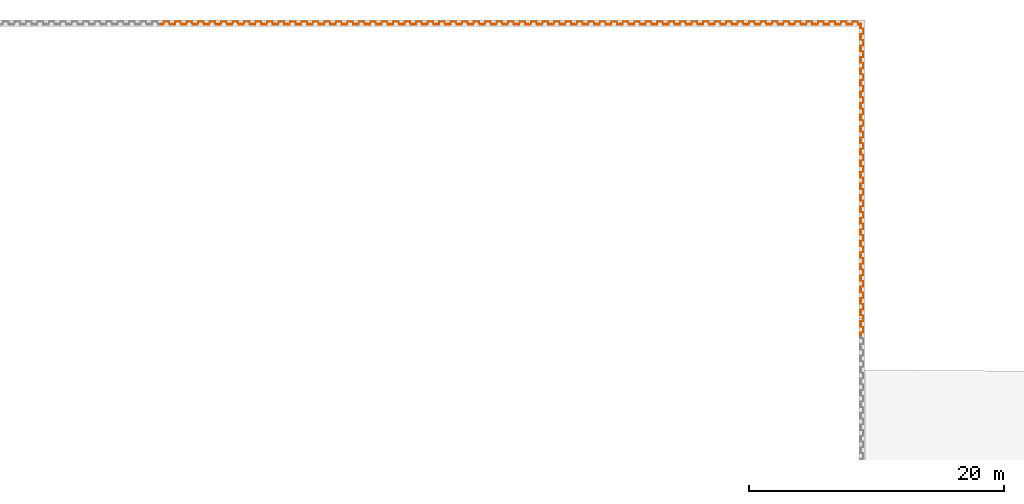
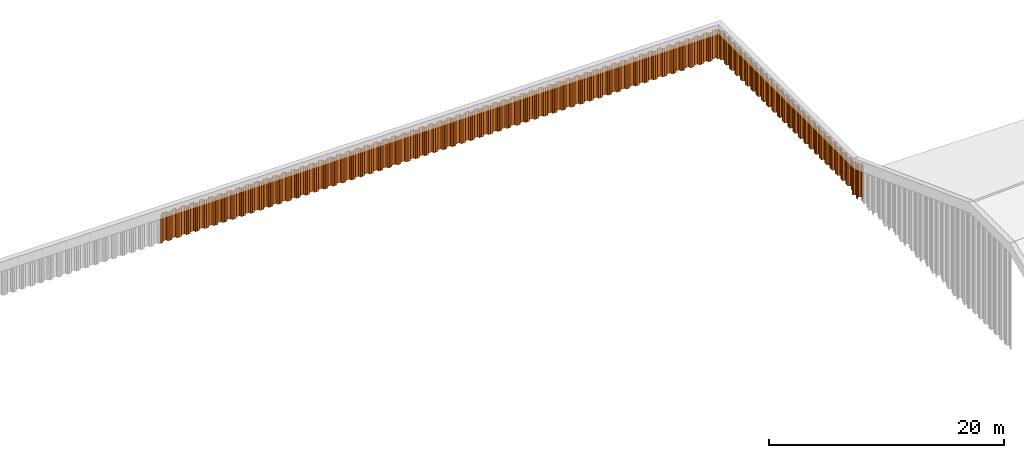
# One storey, part 15 of 15: 88 proxies.
"""IFC2X3 building model written with IfcOpenShell, lengths in millimetres."""

from ifc_helpers import new_model, entity, si_unit, converted_unit, derived_unit, direction, frame, frame_2d, origin, place, context, subcontext, project, spatial, polyline, circle_curve, parameter, trimmed, segment, composite_curve, outline, extrude, source, transform, mapped, material, type_object, type_shapes, element, save


model = new_model("IFC2X3")

# Units and contexts
model_context = context("Model", 3, precision=0.01, world=origin(), true_north=direction((6.12303176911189e-17, 1.0)))
body_context = subcontext(model_context, "Body", "Model", "MODEL_VIEW")
ifc_project = project(units=[si_unit("LENGTHUNIT", "METRE", prefix="MILLI"), si_unit("AREAUNIT", "SQUARE_METRE"), si_unit("VOLUMEUNIT", "CUBIC_METRE"), converted_unit("PLANEANGLEUNIT", "DEGREE", entity("IfcRatioMeasure", 0.0174532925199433), si_unit("PLANEANGLEUNIT", "RADIAN"), dimensions=[0, 0, 0, 0, 0, 0, 0]), si_unit("MASSUNIT", "GRAM", prefix="KILO"), derived_unit("MASSDENSITYUNIT", [(si_unit("MASSUNIT", "GRAM", prefix="KILO"), 1), (si_unit("LENGTHUNIT", "METRE"), -3)]), derived_unit("MOMENTOFINERTIAUNIT", [(si_unit("LENGTHUNIT", "METRE"), 4)]), si_unit("TIMEUNIT", "SECOND"), si_unit("FREQUENCYUNIT", "HERTZ"), si_unit("THERMODYNAMICTEMPERATUREUNIT", "DEGREE_CELSIUS"), derived_unit("THERMALTRANSMITTANCEUNIT", [(si_unit("MASSUNIT", "GRAM", prefix="KILO"), 1), (si_unit("THERMODYNAMICTEMPERATUREUNIT", "KELVIN"), -1), (si_unit("TIMEUNIT", "SECOND"), -3)]), derived_unit("VOLUMETRICFLOWRATEUNIT", [(si_unit("LENGTHUNIT", "METRE"), 3), (si_unit("TIMEUNIT", "SECOND"), -1)]), si_unit("ELECTRICCURRENTUNIT", "AMPERE"), si_unit("ELECTRICVOLTAGEUNIT", "VOLT"), si_unit("POWERUNIT", "WATT"), si_unit("FORCEUNIT", "NEWTON", prefix="KILO"), si_unit("ILLUMINANCEUNIT", "LUX"), si_unit("LUMINOUSFLUXUNIT", "LUMEN"), si_unit("LUMINOUSINTENSITYUNIT", "CANDELA"), derived_unit("USERDEFINED", [(si_unit("MASSUNIT", "GRAM", prefix="KILO"), -1), (si_unit("LENGTHUNIT", "METRE"), -2), (si_unit("TIMEUNIT", "SECOND"), 3), (si_unit("LUMINOUSFLUXUNIT", "LUMEN"), 1)]), derived_unit("LINEARVELOCITYUNIT", [(si_unit("LENGTHUNIT", "METRE"), 1), (si_unit("TIMEUNIT", "SECOND"), -1)]), si_unit("PRESSUREUNIT", "PASCAL"), derived_unit("USERDEFINED", [(si_unit("LENGTHUNIT", "METRE"), -2), (si_unit("MASSUNIT", "GRAM", prefix="KILO"), 1), (si_unit("TIMEUNIT", "SECOND"), -2)]), derived_unit("LINEARFORCEUNIT", [(si_unit("MASSUNIT", "GRAM", prefix="KILO"), 1), (si_unit("LENGTHUNIT", "METRE"), 1), (si_unit("TIMEUNIT", "SECOND"), -2), (si_unit("LENGTHUNIT", "METRE"), -1)]), derived_unit("PLANARFORCEUNIT", [(si_unit("MASSUNIT", "GRAM", prefix="KILO"), 1), (si_unit("LENGTHUNIT", "METRE"), 1), (si_unit("TIMEUNIT", "SECOND"), -2), (si_unit("LENGTHUNIT", "METRE"), -2)])], contexts=[model_context])

# Site, building, storey
site_placement = place(None, origin())
site = spatial("IfcSite", under=ifc_project, at=site_placement, Name="Default", CompositionType="ELEMENT")
building_placement = place(site_placement, origin())
building = spatial("IfcBuilding", under=site, at=building_placement, CompositionType="ELEMENT")
storey_placement = place(building_placement, frame((0.0, 0.0, 9500.0)))
storey = spatial("IfcBuildingStorey", under=building, at=storey_placement, Name="AP+9.500", CompositionType="ELEMENT", Elevation=9500.0)

# Proxies
ifc_material = material(Name="<Unnamed>")
building_element_proxy_type_1 = type_object("IfcBuildingElementProxyType", Name="鋼矢板10H型:鋼矢板10H型", PredefinedType="NOTDEFINED", material=ifc_material)
shared_shape_1 = source(origin(), body_context, "Body", "SweptSolid", [
    extrude(outline(composite_curve([segment(trimmed(circle_curve(frame_2d((85.3662976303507, 306.644432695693), x_axis=(0.422618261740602, 0.906307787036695)), 13.885714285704), [parameter(24.9999999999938)], [parameter(90.0000000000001)], True, "PARAMETER"), True, "CONTINUOUS"), segment(polyline([(72.7815666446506, 312.512789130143), (9.8129512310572, 177.476157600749)]), True, "CONTINUOUS"), segment(trimmed(circle_curve(frame_2d((29.3891994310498, 168.347603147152), x_axis=(0.422618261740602, 0.906307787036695)), 21.6), [parameter(90.0000000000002)], [parameter(168.69006752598)], True, "PARAMETER"), True, "CONTINUOUS"), segment(polyline([(16.598697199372, 150.941769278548), (175.329723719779, 34.2998683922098)]), True, "CONTINUOUS"), segment(trimmed(circle_curve(frame_2d((168.93447260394, 25.596951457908), x_axis=(0.422618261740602, 0.906307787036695)), 10.7999999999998), [parameter(270.0)], [parameter(348.690067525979)], True, "PARAMETER"), False, "CONTINUOUS"), segment(polyline([(178.722596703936, 21.0326742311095), (18.2974003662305, -323.000269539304)]), True, "CONTINUOUS"), segment(trimmed(circle_curve(frame_2d((8.50927626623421, -318.435992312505), x_axis=(0.422618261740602, 0.906307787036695)), 10.8), [parameter(191.30993247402)], [parameter(269.999999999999)], True, "PARAMETER"), False, "CONTINUOUS"), segment(polyline([(5.95324328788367, -328.929166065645), (-185.429973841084, -282.310113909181)]), True, "CONTINUOUS"), segment(trimmed(circle_curve(frame_2d((-190.542039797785, -303.296461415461), x_axis=(0.422618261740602, 0.906307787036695)), 21.6000000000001), [parameter(11.3099324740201)], [parameter(90.0000000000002)], True, "PARAMETER"), True, "CONTINUOUS"), segment(polyline([(-210.118287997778, -294.167906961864), (-290.330886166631, -466.184378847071)]), True, "CONTINUOUS"), segment(trimmed(circle_curve(frame_2d((-270.754637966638, -475.312933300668), x_axis=(0.422618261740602, 0.906307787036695)), 21.6), [parameter(90.0000000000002)], [parameter(269.999999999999)], True, "PARAMETER"), True, "CONTINUOUS"), segment(polyline([(-251.178389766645, -484.441487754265), (-249.065298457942, -479.909948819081)]), True, "CONTINUOUS"), segment(polyline([(-249.065298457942, -479.909948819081), (-258.853422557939, -475.345671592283)]), True, "CONTINUOUS"), segment(polyline([(-258.853422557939, -475.345671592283), (-260.966513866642, -479.877210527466)]), True, "CONTINUOUS"), segment(trimmed(circle_curve(frame_2d((-270.754637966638, -475.312933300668), x_axis=(0.422618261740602, 0.906307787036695)), 10.8), [parameter(90.0000000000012)], [parameter(270.0)], True, "PARAMETER"), False, "CONTINUOUS"), segment(polyline([(-280.542762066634, -470.748656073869), (-200.330163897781, -298.732184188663)]), True, "CONTINUOUS"), segment(trimmed(circle_curve(frame_2d((-190.542039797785, -303.296461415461), x_axis=(0.422618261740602, 0.906307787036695)), 10.8), [parameter(11.3099324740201)], [parameter(89.9999999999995)], True, "PARAMETER"), False, "CONTINUOUS"), segment(polyline([(-187.986006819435, -292.803287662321), (3.39721030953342, -339.422339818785)]), True, "CONTINUOUS"), segment(trimmed(circle_curve(frame_2d((8.50927626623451, -318.435992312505), x_axis=(0.422618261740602, 0.906307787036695)), 21.6), [parameter(191.30993247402)], [parameter(270.0)], True, "PARAMETER"), True, "CONTINUOUS"), segment(polyline([(28.0855244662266, -327.564546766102), (188.510720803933, 16.4683970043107)]), True, "CONTINUOUS"), segment(trimmed(circle_curve(frame_2d((168.93447260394, 25.5969514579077), x_axis=(0.422618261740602, 0.906307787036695)), 21.6), [parameter(270.0)], [parameter(348.69006752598)], True, "PARAMETER"), True, "CONTINUOUS"), segment(polyline([(181.724974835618, 43.0027853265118), (22.9939483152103, 159.644686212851)]), True, "CONTINUOUS"), segment(trimmed(circle_curve(frame_2d((29.3891994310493, 168.347603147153), x_axis=(0.422618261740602, 0.906307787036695)), 10.7999999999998), [parameter(89.9999999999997)], [parameter(168.690067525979)], True, "PARAMETER"), False, "CONTINUOUS"), segment(polyline([(19.6010753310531, 172.911880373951), (82.5696907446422, 307.948511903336)]), True, "CONTINUOUS"), segment(trimmed(circle_curve(frame_2d((85.3662976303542, 306.64443269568), x_axis=(0.422618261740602, 0.906307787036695)), 3.08571428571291), [parameter(25.0000000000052)], [parameter(90.0000000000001)], True, "PARAMETER"), False, "CONTINUOUS"), segment(polyline([(85.3662976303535, 309.730146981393), (122.220231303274, 309.730146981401)]), True, "CONTINUOUS"), segment(trimmed(circle_curve(frame_2d((122.220231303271, 323.615861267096), x_axis=(0.422618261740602, 0.906307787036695)), 13.8857142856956), [parameter(205.000000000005)], [parameter(270.0)], True, "PARAMETER"), True, "CONTINUOUS"), segment(polyline([(134.804962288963, 317.747504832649), (141.079261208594, 331.202782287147)]), True, "CONTINUOUS"), segment(trimmed(circle_curve(frame_2d((121.503013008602, 340.331336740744), x_axis=(0.422618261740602, 0.906307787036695)), 21.6), [parameter(270.0)], [parameter(90.0000000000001)], True, "PARAMETER"), True, "CONTINUOUS"), segment(polyline([(101.926764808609, 349.459891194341), (99.8136734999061, 344.928352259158)]), True, "CONTINUOUS"), segment(polyline([(99.8136734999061, 344.928352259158), (109.601797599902, 340.364075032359)]), True, "CONTINUOUS"), segment(polyline([(109.601797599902, 340.364075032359), (111.714888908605, 344.895613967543)]), True, "CONTINUOUS"), segment(trimmed(circle_curve(frame_2d((121.503013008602, 340.331336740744), x_axis=(0.422618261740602, 0.906307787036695)), 10.8), [parameter(270.0)], [parameter(89.9999999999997)], True, "PARAMETER"), False, "CONTINUOUS"), segment(polyline([(131.291137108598, 335.767059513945), (125.01683818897, 322.311782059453)]), True, "CONTINUOUS"), segment(trimmed(circle_curve(frame_2d((122.220231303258, 323.615861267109), x_axis=(0.422618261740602, 0.906307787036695)), 3.08571428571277), [parameter(204.999999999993)], [parameter(270.0)], True, "PARAMETER"), False, "CONTINUOUS"), segment(polyline([(122.220231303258, 320.530146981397), (85.3662976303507, 320.530146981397)]), True, "CONTINUOUS")], self_intersect=False)), frame((95.205667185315, -48.8888888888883, -3000.0), z_axis=(0.0, 0.0, -1.0), x_axis=(0.4226182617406, 0.906307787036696, 0.0)), (0.0, 0.0, -1.0), 3000.0),
])
type_shapes(building_element_proxy_type_1, [shared_shape_1])
proxy_1_placement = place(storey_placement, frame((89232.0, 49750.0, -650.0)))
element("IfcBuildingElementProxy", 1, at=proxy_1_placement, inside=storey, type_object=building_element_proxy_type_1, material=ifc_material, Name="鋼矢板10H型:鋼矢板10H型", ObjectType="鋼矢板10H型:鋼矢板10H型", context=body_context, shape_type="MappedRepresentation", body=[
    mapped(shared_shape_1, transform((0.0, 0.0, 0.0), scale=1.0)),
])
proxy_2_placement = place(storey_placement, frame((89754.0, 49105.0, -650.0), z_axis=(0.0, 0.0, 1.0), x_axis=(0.0, -1.0, 0.0)))
element("IfcBuildingElementProxy", 2, at=proxy_2_placement, inside=storey, type_object=building_element_proxy_type_1, material=ifc_material, Name="鋼矢板10H型:鋼矢板10H型", ObjectType="鋼矢板10H型:鋼矢板10H型", context=body_context, shape_type="MappedRepresentation", body=[
    mapped(shared_shape_1, transform((0.0, 0.0, 0.0), scale=1.0)),
])
for number, where in (
    (3, (88332.0, 49750.0, -650.0)),
    (4, (87432.0, 49750.0, -650.0)),
    (5, (86532.0, 49750.0, -650.0)),
    (6, (85632.0, 49750.0, -650.0)),
    (7, (84732.0, 49750.0, -650.0)),
    (8, (83832.0, 49750.0, -650.0)),
    (9, (82932.0, 49750.0, -650.0)),
    (10, (82032.0, 49750.0, -650.0)),
    (11, (81132.0, 49750.0, -650.0)),
    (12, (80232.0, 49750.0, -650.0)),
    (13, (79332.0, 49750.0, -650.0)),
    (14, (78432.0, 49750.0, -650.0)),
    (15, (77532.0, 49750.0, -650.0)),
    (16, (76632.0, 49750.0, -650.0)),
    (17, (75732.0, 49750.0, -650.0)),
    (18, (74832.0, 49750.0, -650.0)),
    (19, (73932.0, 49750.0, -650.0)),
    (20, (73032.0, 49750.0, -650.0)),
    (21, (72132.0, 49750.0, -650.0)),
    (22, (71232.0, 49750.0, -650.0)),
    (23, (70332.0, 49750.0, -650.0)),
    (24, (69432.0, 49750.0, -650.0)),
    (25, (68532.0, 49750.0, -650.0)),
    (26, (67632.0, 49750.0, -650.0)),
    (27, (66732.0, 49750.0, -650.0)),
    (28, (65832.0, 49750.0, -650.0)),
    (29, (64932.0, 49750.0, -650.0)),
    (30, (64032.0, 49750.0, -650.0)),
    (31, (63132.0, 49750.0, -650.0)),
    (32, (62232.0, 49750.0, -650.0)),
    (33, (61332.0, 49750.0, -650.0)),
    (34, (60432.0, 49750.0, -650.0)),
    (35, (59532.0, 49750.0, -650.0)),
    (36, (58632.0, 49750.0, -650.0)),
    (37, (57732.0, 49750.0, -650.0)),
    (38, (56832.0, 49750.0, -650.0)),
    (39, (55932.0, 49750.0, -650.0)),
    (40, (55032.0, 49750.0, -650.0)),
    (41, (54132.0, 49750.0, -650.0)),
    (42, (53232.0, 49750.0, -650.0)),
    (43, (52332.0, 49750.0, -650.0)),
    (44, (51432.0, 49750.0, -650.0)),
    (45, (50532.0, 49750.0, -650.0)),
    (46, (49632.0, 49750.0, -650.0)),
    (47, (48732.0, 49750.0, -650.0)),
    (48, (47832.0, 49750.0, -650.0)),
    (49, (46932.0, 49750.0, -650.0)),
    (50, (46032.0, 49750.0, -650.0)),
    (51, (45132.0, 49750.0, -650.0)),
    (52, (44232.0, 49750.0, -650.0)),
    (53, (43332.0, 49750.0, -650.0)),
    (54, (42432.0, 49750.0, -650.0)),
    (55, (41532.0, 49750.0, -650.0)),
    (56, (40632.0, 49750.0, -650.0)),
    (57, (39732.0, 49750.0, -650.0)),
    (58, (38832.0, 49750.0, -650.0)),
    (59, (37932.0, 49750.0, -650.0)),
    (60, (37032.0, 49750.0, -650.0)),
    (61, (36132.0, 49750.0, -650.0)),
    (62, (35232.0, 49750.0, -650.0)),
):
    element("IfcBuildingElementProxy", number, at=place(storey_placement, frame(where)), inside=storey, type_object=building_element_proxy_type_1, material=ifc_material, Name="鋼矢板10H型:鋼矢板10H型", ObjectType="鋼矢板10H型:鋼矢板10H型", context=body_context, shape_type="MappedRepresentation", body=[
        mapped(shared_shape_1, transform((0.0, 0.0, 0.0), scale=1.0)),
    ])
for number, where, z_axis, x_axis in (
    (63, (89754.0, 48205.0, -650.0), (0.0, 0.0, 1.0), (0.0, -1.0, 0.0)),
    (64, (89754.0, 47305.0, -650.0), (0.0, 0.0, 1.0), (0.0, -1.0, 0.0)),
    (65, (89754.0, 46405.0, -650.0), (0.0, 0.0, 1.0), (0.0, -1.0, 0.0)),
    (66, (89754.0, 45505.0, -650.0), (0.0, 0.0, 1.0), (0.0, -1.0, 0.0)),
    (67, (89754.0, 44605.0, -650.0), (0.0, 0.0, 1.0), (0.0, -1.0, 0.0)),
    (68, (89754.0, 43705.0, -650.0), (0.0, 0.0, 1.0), (0.0, -1.0, 0.0)),
    (69, (89754.0, 42805.0, -650.0), (0.0, 0.0, 1.0), (0.0, -1.0, 0.0)),
    (70, (89754.0, 41905.0, -650.0), (0.0, 0.0, 1.0), (0.0, -1.0, 0.0)),
    (71, (89754.0, 41005.0, -650.0), (0.0, 0.0, 1.0), (0.0, -1.0, 0.0)),
    (72, (89754.0, 40105.0, -650.0), (0.0, 0.0, 1.0), (0.0, -1.0, 0.0)),
    (73, (89754.0, 39205.0, -650.0), (0.0, 0.0, 1.0), (0.0, -1.0, 0.0)),
    (74, (89754.0, 38305.0, -650.0), (0.0, 0.0, 1.0), (0.0, -1.0, 0.0)),
    (75, (89754.0, 37405.0, -650.0), (0.0, 0.0, 1.0), (0.0, -1.0, 0.0)),
    (76, (89754.0, 36505.0, -650.0), (0.0, 0.0, 1.0), (0.0, -1.0, 0.0)),
    (77, (89754.0, 35605.0, -650.0), (0.0, 0.0, 1.0), (0.0, -1.0, 0.0)),
    (78, (89754.0, 34705.0, -650.0), (0.0, 0.0, 1.0), (0.0, -1.0, 0.0)),
    (79, (89754.0, 33805.0, -650.0), (0.0, 0.0, 1.0), (0.0, -1.0, 0.0)),
    (80, (89754.0, 32905.0, -650.0), (0.0, 0.0, 1.0), (0.0, -1.0, 0.0)),
    (81, (89754.0, 32005.0, -650.0), (0.0, 0.0, 1.0), (0.0, -1.0, 0.0)),
    (82, (89754.0, 31105.0, -650.0), (0.0, 0.0, 1.0), (0.0, -1.0, 0.0)),
    (83, (89754.0, 30205.0, -650.0), (0.0, 0.0, 1.0), (0.0, -1.0, 0.0)),
    (84, (89754.0, 29305.0, -650.0), (0.0, 0.0, 1.0), (0.0, -1.0, 0.0)),
    (85, (89754.0, 28405.0, -650.0), (0.0, 0.0, 1.0), (0.0, -1.0, 0.0)),
    (86, (89754.0, 27505.0, -650.0), (0.0, 0.0, 1.0), (0.0, -1.0, 0.0)),
):
    element("IfcBuildingElementProxy", number, at=place(storey_placement, frame(where, z_axis=z_axis, x_axis=x_axis)), inside=storey, type_object=building_element_proxy_type_1, material=ifc_material, Name="鋼矢板10H型:鋼矢板10H型", ObjectType="鋼矢板10H型:鋼矢板10H型", context=body_context, shape_type="MappedRepresentation", body=[
        mapped(shared_shape_1, transform((0.0, 0.0, 0.0), scale=1.0)),
    ])
building_element_proxy_type_2 = type_object("IfcBuildingElementProxyType", Name="鋼矢板10H型:鋼矢板10H型", PredefinedType="NOTDEFINED", material=ifc_material)
shared_shape_2 = source(origin(), body_context, "Body", "SweptSolid", [
    extrude(outline(composite_curve([segment(trimmed(circle_curve(frame_2d((85.3662976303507, 306.644432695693), x_axis=(0.422618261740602, 0.906307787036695)), 13.885714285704), [parameter(24.9999999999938)], [parameter(90.0000000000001)], True, "PARAMETER"), True, "CONTINUOUS"), segment(polyline([(72.7815666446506, 312.512789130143), (9.8129512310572, 177.476157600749)]), True, "CONTINUOUS"), segment(trimmed(circle_curve(frame_2d((29.3891994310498, 168.347603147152), x_axis=(0.422618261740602, 0.906307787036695)), 21.6), [parameter(90.0000000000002)], [parameter(168.69006752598)], True, "PARAMETER"), True, "CONTINUOUS"), segment(polyline([(16.598697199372, 150.941769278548), (175.329723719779, 34.2998683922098)]), True, "CONTINUOUS"), segment(trimmed(circle_curve(frame_2d((168.93447260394, 25.596951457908), x_axis=(0.422618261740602, 0.906307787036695)), 10.7999999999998), [parameter(270.0)], [parameter(348.690067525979)], True, "PARAMETER"), False, "CONTINUOUS"), segment(polyline([(178.722596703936, 21.0326742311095), (18.2974003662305, -323.000269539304)]), True, "CONTINUOUS"), segment(trimmed(circle_curve(frame_2d((8.50927626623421, -318.435992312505), x_axis=(0.422618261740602, 0.906307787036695)), 10.8), [parameter(191.30993247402)], [parameter(269.999999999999)], True, "PARAMETER"), False, "CONTINUOUS"), segment(polyline([(5.95324328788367, -328.929166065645), (-185.429973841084, -282.310113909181)]), True, "CONTINUOUS"), segment(trimmed(circle_curve(frame_2d((-190.542039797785, -303.296461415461), x_axis=(0.422618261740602, 0.906307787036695)), 21.6000000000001), [parameter(11.3099324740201)], [parameter(90.0000000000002)], True, "PARAMETER"), True, "CONTINUOUS"), segment(polyline([(-210.118287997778, -294.167906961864), (-290.330886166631, -466.184378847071)]), True, "CONTINUOUS"), segment(trimmed(circle_curve(frame_2d((-270.754637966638, -475.312933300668), x_axis=(0.422618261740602, 0.906307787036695)), 21.6), [parameter(90.0000000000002)], [parameter(269.999999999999)], True, "PARAMETER"), True, "CONTINUOUS"), segment(polyline([(-251.178389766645, -484.441487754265), (-249.065298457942, -479.909948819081)]), True, "CONTINUOUS"), segment(polyline([(-249.065298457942, -479.909948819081), (-258.853422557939, -475.345671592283)]), True, "CONTINUOUS"), segment(polyline([(-258.853422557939, -475.345671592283), (-260.966513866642, -479.877210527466)]), True, "CONTINUOUS"), segment(trimmed(circle_curve(frame_2d((-270.754637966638, -475.312933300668), x_axis=(0.422618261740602, 0.906307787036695)), 10.8), [parameter(90.0000000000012)], [parameter(270.0)], True, "PARAMETER"), False, "CONTINUOUS"), segment(polyline([(-280.542762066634, -470.748656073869), (-200.330163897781, -298.732184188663)]), True, "CONTINUOUS"), segment(trimmed(circle_curve(frame_2d((-190.542039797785, -303.296461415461), x_axis=(0.422618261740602, 0.906307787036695)), 10.8), [parameter(11.3099324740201)], [parameter(89.9999999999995)], True, "PARAMETER"), False, "CONTINUOUS"), segment(polyline([(-187.986006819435, -292.803287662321), (3.39721030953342, -339.422339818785)]), True, "CONTINUOUS"), segment(trimmed(circle_curve(frame_2d((8.50927626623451, -318.435992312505), x_axis=(0.422618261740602, 0.906307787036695)), 21.6), [parameter(191.30993247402)], [parameter(270.0)], True, "PARAMETER"), True, "CONTINUOUS"), segment(polyline([(28.0855244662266, -327.564546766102), (188.510720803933, 16.4683970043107)]), True, "CONTINUOUS"), segment(trimmed(circle_curve(frame_2d((168.93447260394, 25.5969514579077), x_axis=(0.422618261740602, 0.906307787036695)), 21.6), [parameter(270.0)], [parameter(348.69006752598)], True, "PARAMETER"), True, "CONTINUOUS"), segment(polyline([(181.724974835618, 43.0027853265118), (22.9939483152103, 159.644686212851)]), True, "CONTINUOUS"), segment(trimmed(circle_curve(frame_2d((29.3891994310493, 168.347603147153), x_axis=(0.422618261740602, 0.906307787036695)), 10.7999999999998), [parameter(89.9999999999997)], [parameter(168.690067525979)], True, "PARAMETER"), False, "CONTINUOUS"), segment(polyline([(19.6010753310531, 172.911880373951), (82.5696907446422, 307.948511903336)]), True, "CONTINUOUS"), segment(trimmed(circle_curve(frame_2d((85.3662976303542, 306.64443269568), x_axis=(0.422618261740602, 0.906307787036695)), 3.08571428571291), [parameter(25.0000000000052)], [parameter(90.0000000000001)], True, "PARAMETER"), False, "CONTINUOUS"), segment(polyline([(85.3662976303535, 309.730146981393), (122.220231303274, 309.730146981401)]), True, "CONTINUOUS"), segment(trimmed(circle_curve(frame_2d((122.220231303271, 323.615861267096), x_axis=(0.422618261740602, 0.906307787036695)), 13.8857142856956), [parameter(205.000000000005)], [parameter(270.0)], True, "PARAMETER"), True, "CONTINUOUS"), segment(polyline([(134.804962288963, 317.747504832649), (141.079261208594, 331.202782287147)]), True, "CONTINUOUS"), segment(trimmed(circle_curve(frame_2d((121.503013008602, 340.331336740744), x_axis=(0.422618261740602, 0.906307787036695)), 21.6), [parameter(270.0)], [parameter(90.0000000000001)], True, "PARAMETER"), True, "CONTINUOUS"), segment(polyline([(101.926764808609, 349.459891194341), (99.8136734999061, 344.928352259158)]), True, "CONTINUOUS"), segment(polyline([(99.8136734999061, 344.928352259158), (109.601797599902, 340.364075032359)]), True, "CONTINUOUS"), segment(polyline([(109.601797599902, 340.364075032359), (111.714888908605, 344.895613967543)]), True, "CONTINUOUS"), segment(trimmed(circle_curve(frame_2d((121.503013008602, 340.331336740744), x_axis=(0.422618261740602, 0.906307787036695)), 10.8), [parameter(270.0)], [parameter(89.9999999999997)], True, "PARAMETER"), False, "CONTINUOUS"), segment(polyline([(131.291137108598, 335.767059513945), (125.01683818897, 322.311782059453)]), True, "CONTINUOUS"), segment(trimmed(circle_curve(frame_2d((122.220231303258, 323.615861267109), x_axis=(0.422618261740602, 0.906307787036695)), 3.08571428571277), [parameter(204.999999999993)], [parameter(270.0)], True, "PARAMETER"), False, "CONTINUOUS"), segment(polyline([(122.220231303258, 320.530146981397), (85.3662976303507, 320.530146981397)]), True, "CONTINUOUS")], self_intersect=False)), frame((95.205667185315, -48.8888888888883, -3500.0), z_axis=(0.0, 0.0, -1.0), x_axis=(0.4226182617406, 0.906307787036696, 0.0)), (0.0, 0.0, -1.0), 3500.0),
])
type_shapes(building_element_proxy_type_2, [shared_shape_2])
for number, where, z_axis, x_axis in (
    (87, (89754.0, 26605.0, -535.122371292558), (0.0, 0.0, 1.0), (0.0, -1.0, 0.0)),
    (88, (89754.0, 25705.0, -198.978346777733), (0.0, 0.0, 1.0), (0.0, -1.0, 0.0)),
):
    element("IfcBuildingElementProxy", number, at=place(storey_placement, frame(where, z_axis=z_axis, x_axis=x_axis)), inside=storey, type_object=building_element_proxy_type_2, material=ifc_material, Name="鋼矢板10H型:鋼矢板10H型", ObjectType="鋼矢板10H型:鋼矢板10H型", context=body_context, shape_type="MappedRepresentation", body=[
        mapped(shared_shape_2, transform((0.0, 0.0, 0.0), scale=1.0)),
    ])

save(model, "model.ifc")
